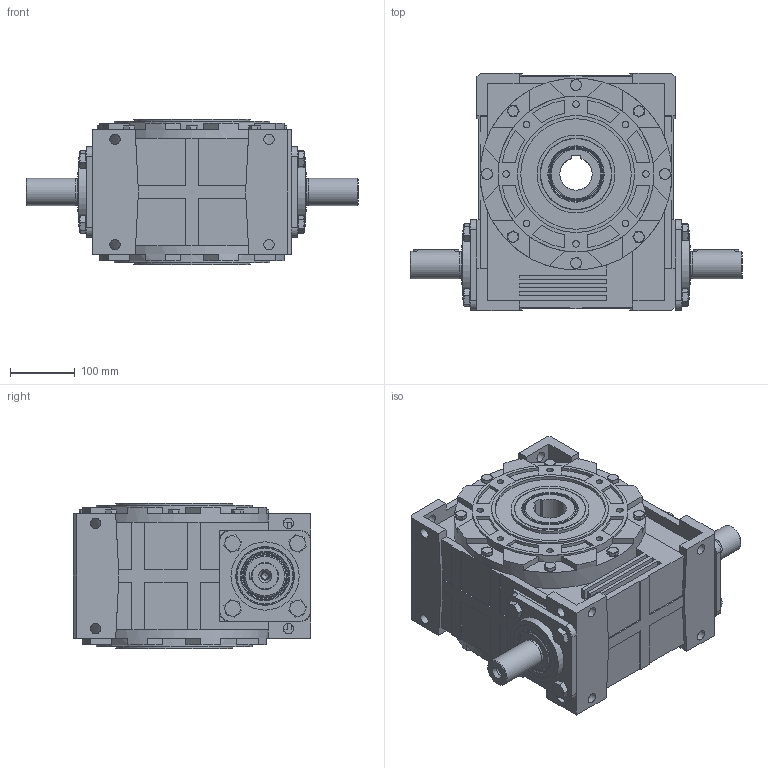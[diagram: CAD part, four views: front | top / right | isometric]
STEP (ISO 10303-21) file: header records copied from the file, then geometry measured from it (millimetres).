
FILE_DESCRIPTION (( 'STEP AP203' ), '1' );
FILE_NAME ('R-140_WBS2_3D.STEP', '2018-11-13T11:26:28', ( 'Biuro' ), ( 'Microsoft' ), 'SwSTEP 2.0', 'SolidWorks 2013', '' );
FILE_SCHEMA (( 'CONFIG_CONTROL_DESIGN' ));
Length unit declared in the file: millimetre
Products named in the file (1): R-140_WBS2_3D
Bounding box: 511 x 365 x 224 mm (x, y, z)
Volume: 20653899 mm3; surface area: 807212.6 mm2
Topology: 1 solids, 20 shells, 950 faces, 2278 edges, 1429 vertices
Faces by surface type: plane 589, cylinder 163, cone 154, torus 42, bspline 2
Full cylindrical faces by diameter (mm): 10 x24, 10.2 x2, 10.5 x8, 13 x2, 16 x28, 17 x8, 24 x8, 37 x1, 41.2 x1, 41.4 x1, 42 x2, 53 x1, 64.95 x2, 65 x3, 70.861 x2, 86 x2, 90 x4, 105 x2, 110 x2, 120 x2, 170 x2, 180 x2, 240 x2, 295 x2
Entity records: 26805 total; most frequent: CARTESIAN_POINT 5853, DIRECTION 4350, ORIENTED_EDGE 3980, EDGE_CURVE 1990, AXIS2_PLACEMENT_3D 1613, VERTEX_POINT 1340, EDGE_LOOP 1274, LINE 1124
